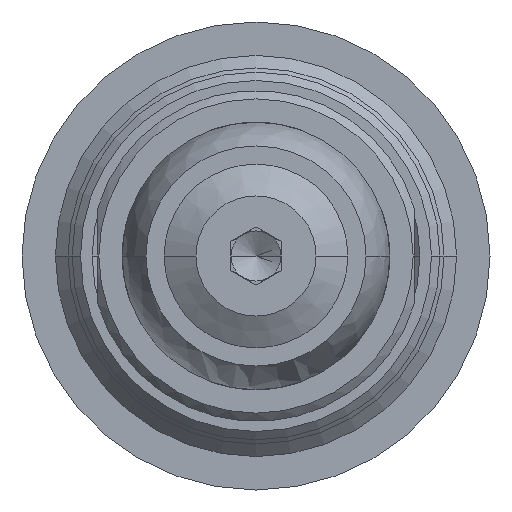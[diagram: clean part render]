
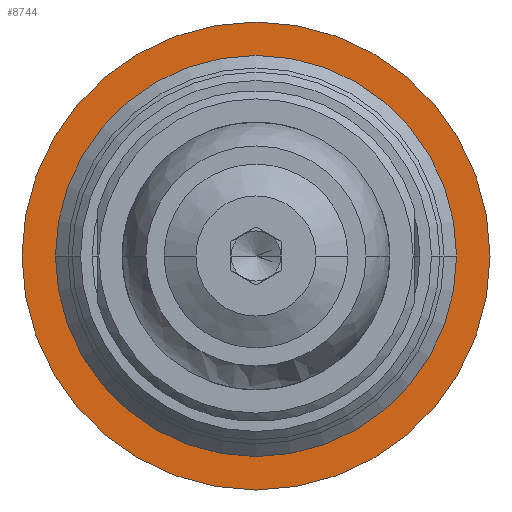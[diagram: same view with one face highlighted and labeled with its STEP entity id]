
A CAD part, front view. The second image highlights one B-rep face of the part: STEP entity #8744.
In plain terms, the highlighted planar face has unit normal (0, -1, 0).
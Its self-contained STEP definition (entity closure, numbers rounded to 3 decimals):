
#1637=CARTESIAN_POINT('',(0.,0.,0.));
#1638=DIRECTION('',(0.,1.,0.));
#1639=DIRECTION('',(1.,0.,0.));
#1640=AXIS2_PLACEMENT_3D('',#1637,#1638,#1639);
#1642=CARTESIAN_POINT('',(0.,0.,0.));
#1643=DIRECTION('',(0.,1.,0.));
#1644=DIRECTION('',(-1.,0.,0.));
#1645=AXIS2_PLACEMENT_3D('',#1642,#1643,#1644);
#1647=CARTESIAN_POINT('',(0.,0.,0.));
#1648=DIRECTION('',(0.,-1.,0.));
#1649=DIRECTION('',(1.,0.,0.));
#1650=AXIS2_PLACEMENT_3D('',#1647,#1648,#1649);
#1652=CARTESIAN_POINT('',(0.,0.,0.));
#1653=DIRECTION('',(0.,-1.,0.));
#1654=DIRECTION('',(-1.,0.,0.));
#1655=AXIS2_PLACEMENT_3D('',#1652,#1653,#1654);
#2133=CARTESIAN_POINT('',(11.8,0.,0.));
#2134=VERTEX_POINT('',#2133);
#2135=CARTESIAN_POINT('',(-11.8,0.,0.));
#2136=VERTEX_POINT('',#2135);
#2137=CARTESIAN_POINT('',(14.,0.,0.));
#2138=CARTESIAN_POINT('',(-14.,0.,0.));
#2139=VERTEX_POINT('',#2137);
#2140=VERTEX_POINT('',#2138);
#8729=CARTESIAN_POINT('',(0.,0.,0.));
#8730=DIRECTION('',(0.,-1.,0.));
#8731=DIRECTION('',(-1.,0.,0.));
#8732=AXIS2_PLACEMENT_3D('',#8729,#8730,#8731);
#8733=PLANE('',#8732);
#8735=ORIENTED_EDGE('',*,*,#8734,.T.);
#8737=ORIENTED_EDGE('',*,*,#8736,.T.);
#8738=EDGE_LOOP('',(#8735,#8737));
#8739=FACE_OUTER_BOUND('',#8738,.F.);
#8740=ORIENTED_EDGE('',*,*,#8711,.T.);
#8741=ORIENTED_EDGE('',*,*,#8722,.T.);
#8742=EDGE_LOOP('',(#8740,#8741));
#8743=FACE_BOUND('',#8742,.F.);
#1641=CIRCLE('',#1640,14.);
#1646=CIRCLE('',#1645,14.);
#1651=CIRCLE('',#1650,11.8);
#1656=CIRCLE('',#1655,11.8);
#8711=EDGE_CURVE('',#2134,#2136,#1651,.T.);
#8722=EDGE_CURVE('',#2136,#2134,#1656,.T.);
#8734=EDGE_CURVE('',#2139,#2140,#1641,.T.);
#8736=EDGE_CURVE('',#2140,#2139,#1646,.T.);
#8744=ADVANCED_FACE('',(#8739,#8743),#8733,.T.);
